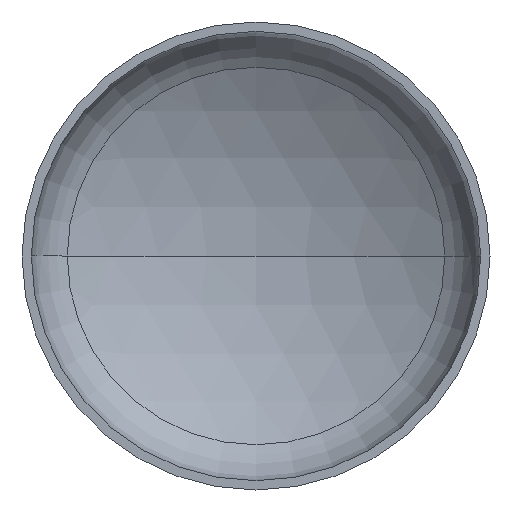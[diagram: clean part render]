
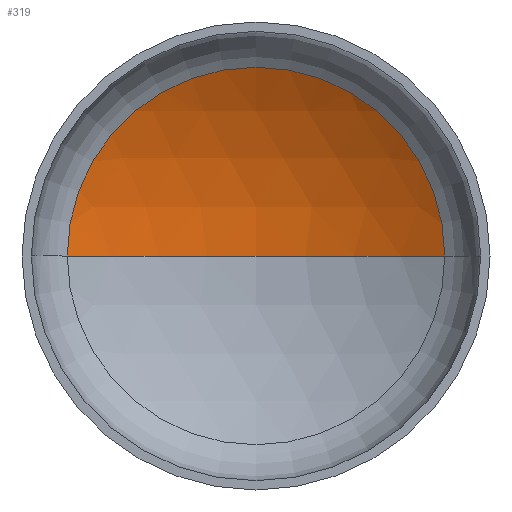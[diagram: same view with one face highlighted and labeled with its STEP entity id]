
A CAD part, front view. The second image highlights one B-rep face of the part: STEP entity #319.
In plain terms, the highlighted spherical face has radius 880 mm.
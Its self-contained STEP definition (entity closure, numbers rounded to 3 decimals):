
#3 = CARTESIAN_POINT ( 'NONE',  ( 0., -543.136, 0. ) ) ;
#9 = AXIS2_PLACEMENT_3D ( 'NONE', #3, #285, #126 ) ;
#11 = AXIS2_PLACEMENT_3D ( 'NONE', #335, #191, #361 ) ;
#19 = VERTEX_POINT ( 'NONE', #274 ) ;
#34 = CARTESIAN_POINT ( 'NONE',  ( -443.718, 216.807, 0. ) ) ;
#36 = AXIS2_PLACEMENT_3D ( 'NONE', #331, #187, #357 ) ;
#40 = VERTEX_POINT ( 'NONE', #174 ) ;
#53 = AXIS2_PLACEMENT_3D ( 'NONE', #143, #139, #175 ) ;
#64 = ORIENTED_EDGE ( 'NONE', *, *, #352, .T. ) ;
#86 = VERTEX_POINT ( 'NONE', #34 ) ;
#98 = ORIENTED_EDGE ( 'NONE', *, *, #393, .T. ) ;
#114 = EDGE_LOOP ( 'NONE', ( #132, #98, #64 ) ) ;
#126 = DIRECTION ( 'NONE',  ( 1., 0., 0. ) ) ;
#132 = ORIENTED_EDGE ( 'NONE', *, *, #391, .F. ) ;
#139 = DIRECTION ( 'NONE',  ( 0., 0., -1. ) ) ;
#143 = CARTESIAN_POINT ( 'NONE',  ( 0., -543.136, 0. ) ) ;
#174 = CARTESIAN_POINT ( 'NONE',  ( 443.718, 216.807, 0. ) ) ;
#175 = DIRECTION ( 'NONE',  ( -1., 0., 0. ) ) ;
#187 = DIRECTION ( 'NONE',  ( 0., -1., 0. ) ) ;
#191 = DIRECTION ( 'NONE',  ( 0., 0., -1. ) ) ;
#254 = CIRCLE ( 'NONE', #11, 880. ) ;
#274 = CARTESIAN_POINT ( 'NONE',  ( 0., 336.864, 0. ) ) ;
#285 = DIRECTION ( 'NONE',  ( 0., 0., 1. ) ) ;
#316 = CIRCLE ( 'NONE', #9, 880. ) ;
#319 = ADVANCED_FACE ( 'NONE', ( #348 ), #342, .F. ) ;
#329 = CIRCLE ( 'NONE', #36, 443.718 ) ;
#331 = CARTESIAN_POINT ( 'NONE',  ( 0., 216.807, 0. ) ) ;
#335 = CARTESIAN_POINT ( 'NONE',  ( 0., -543.136, 0. ) ) ;
#342 = SPHERICAL_SURFACE ( 'NONE', #53, 880. ) ;
#348 = FACE_OUTER_BOUND ( 'NONE', #114, .T. ) ;
#352 = EDGE_CURVE ( 'NONE', #40, #86, #329, .T. ) ;
#357 = DIRECTION ( 'NONE',  ( 1., 0., 0. ) ) ;
#361 = DIRECTION ( 'NONE',  ( -1., 0., 0. ) ) ;
#391 = EDGE_CURVE ( 'NONE', #19, #86, #316, .T. ) ;
#393 = EDGE_CURVE ( 'NONE', #19, #40, #254, .T. ) ;
